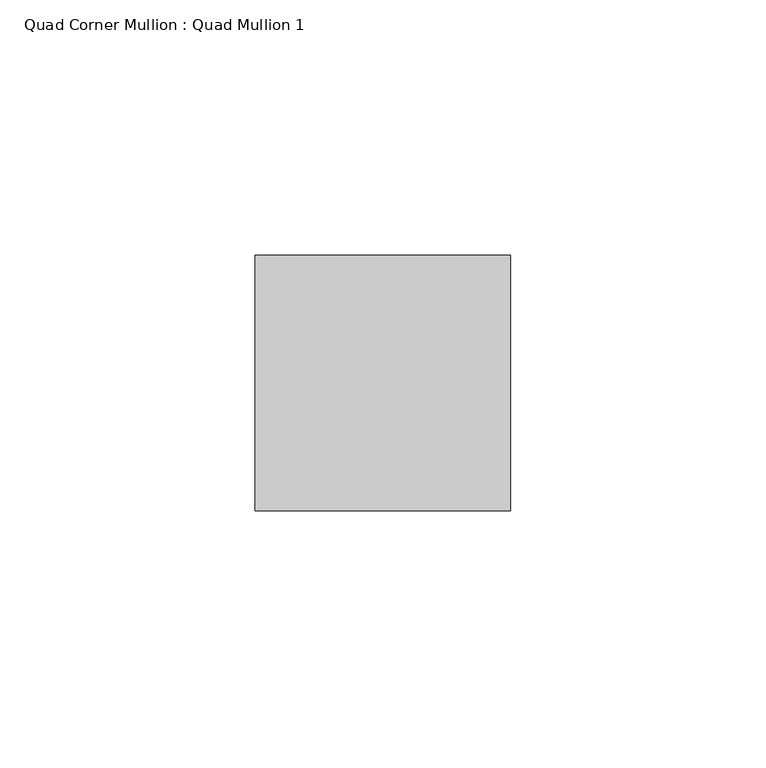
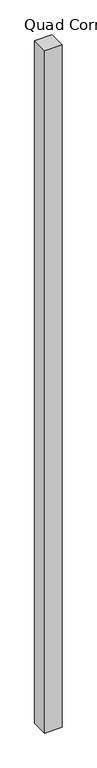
"""IFC4 building model written with IfcOpenShell, lengths in millimetres: member geometry, Quad Corner Mullion : Quad Mullion 1."""

from ifc_helpers import new_model, si_unit, frame, origin, place, context, project, spatial, polyline, outline, extrude, source, transform, mapped, element, save


def quad_corner_mullion_quad_mullion_1_9583668e(model_context):
    return source(origin(), model_context, "Body", "SweptSolid", [
        extrude(outline(polyline([(25.0, 25.0), (25.0, -25.0), (-25.0, -25.0), (-25.0, 25.0), (25.0, 25.0)])), frame((0.0, 0.0, -2083.1937869), z_axis=(0.0, 0.0, 1.0), x_axis=(1.0, 0.0, 0.0)), (0.0, 0.0, 1.0), 2083.1937869),
    ])


if __name__ == "__main__":
    model = new_model("IFC4")
    model_context = context("Model", 3, world=origin())
    ifc_project = project(units=[si_unit("LENGTHUNIT", "METRE", prefix="MILLI")], contexts=[model_context])
    site = spatial("IfcSite", under=ifc_project)
    building = spatial("IfcBuilding", under=site)
    placement = place(None, origin())
    quad_corner_mullion_quad_mullion_1_shape = quad_corner_mullion_quad_mullion_1_9583668e(model_context)
    element("IfcMember", 1, ObjectType="Quad Corner Mullion : Quad Mullion 1", at=placement, inside=building, context=model_context, shape_type="MappedRepresentation", body=[
        mapped(quad_corner_mullion_quad_mullion_1_shape, transform((0.0, 0.0, 0.0), x_axis=(1.0, 0.0, 0.0), y_axis=(0.0, 1.0, 0.0), z_axis=(0.0, 0.0, 1.0))),
    ])
    save(model, "model.ifc")
